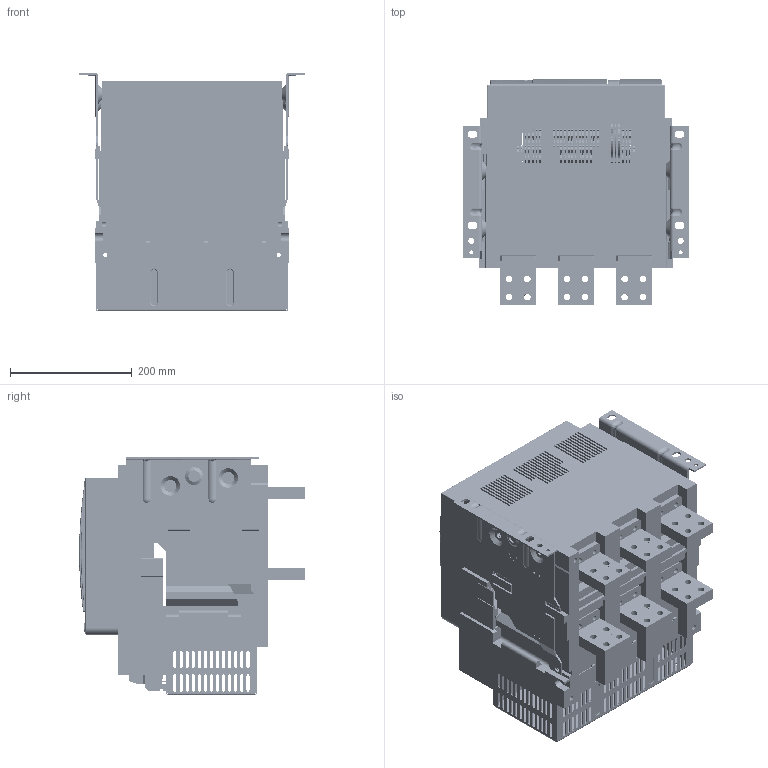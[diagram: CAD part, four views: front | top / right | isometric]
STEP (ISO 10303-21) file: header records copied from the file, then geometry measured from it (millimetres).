
FILE_DESCRIPTION(/* description */ (''),/* implementation_level */ '2;1');
FILE_NAME(/* name */ 'C:/Users/carlos.gonzalez/Documents/ADRIAN_TEMP_DRAWING/Ex9A25_3P_F_PB_Drawing.step',/* time_stamp */ '2021-10-14T12:31:56+02:00',/* author */ (''),/* organization */ (''),/* preprocessor_version */ 'ST-DEVELOPER v18.1',/* originating_system */ 'Autodesk Translation Framework v10.10.0.1391',/* authorisation */ '');
FILE_SCHEMA (('AUTOMOTIVE_DESIGN { 1 0 10303 214 3 1 1 }'));
Products named in the file (36): Ex9A25_3P_F; Auxiliary terminals; EX9A25-GDS-DZ_ASM; 8060A03101011; UKK_3-SELECT-81050_1; D_UKK_3_5-SELECT-6580; 0800886_E-NS-35-N_SELECT; Cover; 8253A0101108-1; 8253A0101010; 5300A15261172_ASM; 8300A0101133; 8860A0724001; 8235A0101103; 8253A0101002; 8282A0820014; 8320A0101121-0814; 8860A1424194; 8253A0101106-1; 8253A0101107-1; 8ZTD_282_1203_AF1; Internal components; 2500-JIZUO-3P; 2500-DIBAN-3P; 8060A0306109; 8060A0306108; 8300A0306005; 8ZTD_123_167_A; 8ZTD_123_166_A; Smart unit; 5043A0101001; 8320A0101004; 8005A0101008; 8860A1424009; Main terminals; 8580A0412108
Assembly tree (75 placements, depth 4):
  Ex9A25_3P_F
    Auxiliary terminals
      EX9A25-GDS-DZ_ASM
        8060A03101011
        0800886_E-NS-35-N_SELECT  x2
        UKK_3-SELECT-81050_1  x34
        D_UKK_3_5-SELECT-6580
    Cover
      8253A0101108-1
      8253A0101010
      5300A15261172_ASM
        8300A0101133
        8860A0724001
        8235A0101103
        8253A0101002
        8282A0820014
        8320A0101121-0814
        8860A1424194
        8253A0101106-1
        8253A0101107-1
        8ZTD_282_1203_AF1  x2
    Internal components
      2500-JIZUO-3P
      2500-DIBAN-3P
      8060A0306109
      8060A0306108
      8300A0306005
      8ZTD_123_167_A
      8ZTD_123_166_A
    Smart unit
      5043A0101001
      8320A0101004
      8005A0101008
      8860A1424009
    Main terminals
      8580A0412108  x6
Bounding box: 370 x 370.99 x 392 mm (x, y, z)
Volume: 16417528.1 mm3; surface area: 2257453.8 mm2
Topology: 68 solids, 97 shells, 13297 faces, 36076 edges, 23650 vertices
Faces by surface type: plane 10681, cylinder 1917, bspline 276, torus 227, cone 125, sphere 71
Full cylindrical faces by diameter (mm): 2 x7, 2.1 x2, 2.5 x3, 2.6 x2, 3 x11, 3.5 x11, 4 x12, 4.2 x4, 4.3 x1, 4.5 x2, 5 x16, 5.008 x1, 6 x11, 6.1 x1, 6.2 x2, 6.5 x5, 7 x4, 8 x4, 8.3 x2, 8.5 x29, 9 x2, 10 x10, 11 x24, 12 x5, 12.5 x1, 14 x1, 15 x1, 16 x1, 17 x1, 18 x2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
Entity records: 205871 total; most frequent: CARTESIAN_POINT 82304, ORIENTED_EDGE 25978, DIRECTION 24326, EDGE_CURVE 13014, LINE 9314, VECTOR 9314, VERTEX_POINT 8462, AXIS2_PLACEMENT_3D 7506
